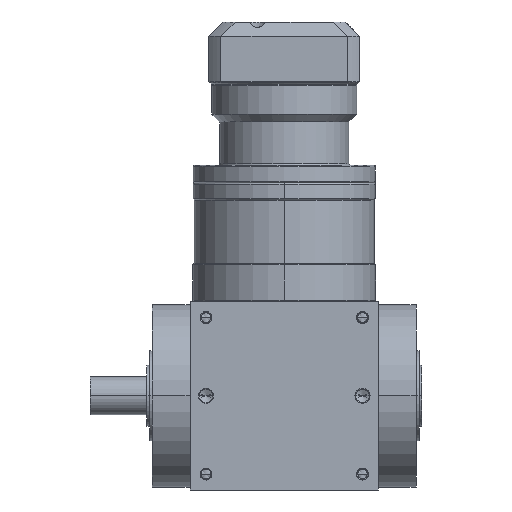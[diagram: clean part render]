
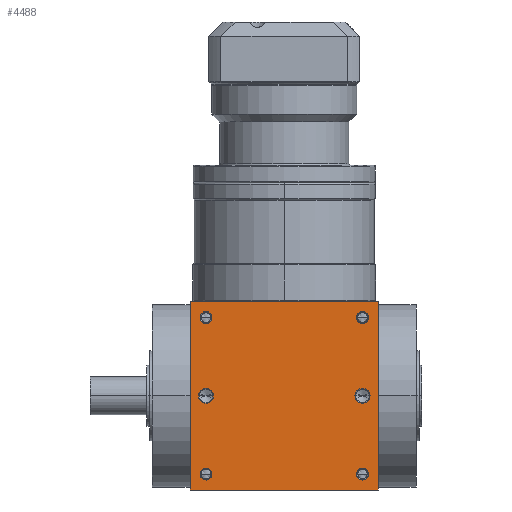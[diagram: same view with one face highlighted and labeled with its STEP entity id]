
A CAD part, front view. The second image highlights one B-rep face of the part: STEP entity #4488.
In plain terms, the highlighted planar face has unit normal (0, -1, 0).
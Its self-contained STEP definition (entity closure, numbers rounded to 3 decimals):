
#5=DIRECTION('',(1.,0.,0.));
#6=VECTOR('',#5,65.);
#7=CARTESIAN_POINT('',(-32.5,-32.5,-32.5));
#8=LINE('',#7,#6);
#155=DIRECTION('',(0.,0.,1.));
#156=VECTOR('',#155,65.);
#157=CARTESIAN_POINT('',(32.5,-32.5,-32.5));
#158=LINE('',#157,#156);
#209=DIRECTION('',(0.,0.,1.));
#210=VECTOR('',#209,65.);
#211=CARTESIAN_POINT('',(-32.5,-32.5,-32.5));
#212=LINE('',#211,#210);
#213=CARTESIAN_POINT('',(27.,-32.5,27.));
#214=DIRECTION('',(0.,1.,0.));
#215=DIRECTION('',(-1.,0.,0.));
#216=AXIS2_PLACEMENT_3D('',#213,#214,#215);
#218=CARTESIAN_POINT('',(27.,-32.5,27.));
#219=DIRECTION('',(0.,1.,0.));
#220=DIRECTION('',(1.,0.,0.));
#221=AXIS2_PLACEMENT_3D('',#218,#219,#220);
#223=CARTESIAN_POINT('',(-27.,-32.5,27.));
#224=DIRECTION('',(0.,1.,0.));
#225=DIRECTION('',(-1.,0.,0.));
#226=AXIS2_PLACEMENT_3D('',#223,#224,#225);
#228=CARTESIAN_POINT('',(-27.,-32.5,27.));
#229=DIRECTION('',(0.,1.,0.));
#230=DIRECTION('',(1.,0.,0.));
#231=AXIS2_PLACEMENT_3D('',#228,#229,#230);
#233=CARTESIAN_POINT('',(27.,-32.5,-27.));
#234=DIRECTION('',(0.,1.,0.));
#235=DIRECTION('',(-1.,0.,0.));
#236=AXIS2_PLACEMENT_3D('',#233,#234,#235);
#238=CARTESIAN_POINT('',(27.,-32.5,-27.));
#239=DIRECTION('',(0.,1.,0.));
#240=DIRECTION('',(1.,0.,0.));
#241=AXIS2_PLACEMENT_3D('',#238,#239,#240);
#243=CARTESIAN_POINT('',(-27.,-32.5,-27.));
#244=DIRECTION('',(0.,1.,0.));
#245=DIRECTION('',(-1.,0.,0.));
#246=AXIS2_PLACEMENT_3D('',#243,#244,#245);
#248=CARTESIAN_POINT('',(-27.,-32.5,-27.));
#249=DIRECTION('',(0.,1.,0.));
#250=DIRECTION('',(1.,0.,0.));
#251=AXIS2_PLACEMENT_3D('',#248,#249,#250);
#253=CARTESIAN_POINT('',(-27.,-32.5,0.));
#254=DIRECTION('',(0.,1.,0.));
#255=DIRECTION('',(1.,0.,0.));
#256=AXIS2_PLACEMENT_3D('',#253,#254,#255);
#258=CARTESIAN_POINT('',(-27.,-32.5,0.));
#259=DIRECTION('',(0.,1.,0.));
#260=DIRECTION('',(-1.,0.,0.));
#261=AXIS2_PLACEMENT_3D('',#258,#259,#260);
#263=CARTESIAN_POINT('',(27.,-32.5,0.));
#264=DIRECTION('',(0.,1.,0.));
#265=DIRECTION('',(1.,0.,0.));
#266=AXIS2_PLACEMENT_3D('',#263,#264,#265);
#268=CARTESIAN_POINT('',(27.,-32.5,0.));
#269=DIRECTION('',(0.,1.,0.));
#270=DIRECTION('',(-1.,0.,0.));
#271=AXIS2_PLACEMENT_3D('',#268,#269,#270);
#285=DIRECTION('',(1.,0.,0.));
#286=VECTOR('',#285,65.);
#287=CARTESIAN_POINT('',(-32.5,-32.5,32.5));
#288=LINE('',#287,#286);
#3589=CARTESIAN_POINT('',(-32.5,-32.5,-32.5));
#3591=VERTEX_POINT('',#3589);
#3592=CARTESIAN_POINT('',(32.5,-32.5,-32.5));
#3593=VERTEX_POINT('',#3592);
#3597=CARTESIAN_POINT('',(-32.5,-32.5,32.5));
#3599=VERTEX_POINT('',#3597);
#3600=CARTESIAN_POINT('',(32.5,-32.5,32.5));
#3601=VERTEX_POINT('',#3600);
#3768=CARTESIAN_POINT('',(24.95,-32.5,27.));
#3769=CARTESIAN_POINT('',(29.05,-32.5,27.));
#3770=VERTEX_POINT('',#3768);
#3771=VERTEX_POINT('',#3769);
#3776=CARTESIAN_POINT('',(-29.05,-32.5,27.));
#3777=CARTESIAN_POINT('',(-24.95,-32.5,27.));
#3778=VERTEX_POINT('',#3776);
#3779=VERTEX_POINT('',#3777);
#3784=CARTESIAN_POINT('',(24.95,-32.5,-27.));
#3785=CARTESIAN_POINT('',(29.05,-32.5,-27.));
#3786=VERTEX_POINT('',#3784);
#3787=VERTEX_POINT('',#3785);
#3792=CARTESIAN_POINT('',(-29.05,-32.5,-27.));
#3793=CARTESIAN_POINT('',(-24.95,-32.5,-27.));
#3794=VERTEX_POINT('',#3792);
#3795=VERTEX_POINT('',#3793);
#4134=CARTESIAN_POINT('',(-24.4,-32.5,0.));
#4135=CARTESIAN_POINT('',(-29.6,-32.5,0.));
#4136=VERTEX_POINT('',#4134);
#4137=VERTEX_POINT('',#4135);
#4142=CARTESIAN_POINT('',(29.6,-32.5,0.));
#4143=CARTESIAN_POINT('',(24.4,-32.5,0.));
#4144=VERTEX_POINT('',#4142);
#4145=VERTEX_POINT('',#4143);
#4440=CARTESIAN_POINT('',(-32.5,-32.5,-32.5));
#4441=DIRECTION('',(0.,-1.,0.));
#4442=DIRECTION('',(1.,0.,0.));
#4443=AXIS2_PLACEMENT_3D('',#4440,#4441,#4442);
#4444=PLANE('',#4443);
#4445=ORIENTED_EDGE('',*,*,#4280,.F.);
#4446=ORIENTED_EDGE('',*,*,#4323,.T.);
#4448=ORIENTED_EDGE('',*,*,#4447,.T.);
#4449=ORIENTED_EDGE('',*,*,#4402,.F.);
#4450=EDGE_LOOP('',(#4445,#4446,#4448,#4449));
#4451=FACE_OUTER_BOUND('',#4450,.F.);
#4453=ORIENTED_EDGE('',*,*,#4452,.F.);
#4455=ORIENTED_EDGE('',*,*,#4454,.F.);
#4456=EDGE_LOOP('',(#4453,#4455));
#4457=FACE_BOUND('',#4456,.F.);
#4459=ORIENTED_EDGE('',*,*,#4458,.F.);
#4461=ORIENTED_EDGE('',*,*,#4460,.F.);
#4462=EDGE_LOOP('',(#4459,#4461));
#4463=FACE_BOUND('',#4462,.F.);
#4465=ORIENTED_EDGE('',*,*,#4464,.F.);
#4467=ORIENTED_EDGE('',*,*,#4466,.F.);
#4468=EDGE_LOOP('',(#4465,#4467));
#4469=FACE_BOUND('',#4468,.F.);
#4471=ORIENTED_EDGE('',*,*,#4470,.F.);
#4473=ORIENTED_EDGE('',*,*,#4472,.F.);
#4474=EDGE_LOOP('',(#4471,#4473));
#4475=FACE_BOUND('',#4474,.F.);
#4477=ORIENTED_EDGE('',*,*,#4476,.F.);
#4479=ORIENTED_EDGE('',*,*,#4478,.F.);
#4480=EDGE_LOOP('',(#4477,#4479));
#4481=FACE_BOUND('',#4480,.F.);
#4483=ORIENTED_EDGE('',*,*,#4482,.F.);
#4485=ORIENTED_EDGE('',*,*,#4484,.F.);
#4486=EDGE_LOOP('',(#4483,#4485));
#4487=FACE_BOUND('',#4486,.F.);
#4488=ADVANCED_FACE('',(#4451,#4457,#4463,#4469,#4475,#4481,#4487),#4444,.T.);
#217=CIRCLE('',#216,2.05);
#222=CIRCLE('',#221,2.05);
#227=CIRCLE('',#226,2.05);
#232=CIRCLE('',#231,2.05);
#237=CIRCLE('',#236,2.05);
#242=CIRCLE('',#241,2.05);
#247=CIRCLE('',#246,2.05);
#252=CIRCLE('',#251,2.05);
#257=CIRCLE('',#256,2.6);
#262=CIRCLE('',#261,2.6);
#267=CIRCLE('',#266,2.6);
#272=CIRCLE('',#271,2.6);
#4280=EDGE_CURVE('',#3591,#3593,#8,.T.);
#4323=EDGE_CURVE('',#3591,#3599,#212,.T.);
#4402=EDGE_CURVE('',#3593,#3601,#158,.T.);
#4447=EDGE_CURVE('',#3599,#3601,#288,.T.);
#4452=EDGE_CURVE('',#3770,#3771,#217,.T.);
#4454=EDGE_CURVE('',#3771,#3770,#222,.T.);
#4458=EDGE_CURVE('',#3778,#3779,#227,.T.);
#4460=EDGE_CURVE('',#3779,#3778,#232,.T.);
#4464=EDGE_CURVE('',#3786,#3787,#237,.T.);
#4466=EDGE_CURVE('',#3787,#3786,#242,.T.);
#4470=EDGE_CURVE('',#3794,#3795,#247,.T.);
#4472=EDGE_CURVE('',#3795,#3794,#252,.T.);
#4476=EDGE_CURVE('',#4136,#4137,#257,.T.);
#4478=EDGE_CURVE('',#4137,#4136,#262,.T.);
#4482=EDGE_CURVE('',#4144,#4145,#267,.T.);
#4484=EDGE_CURVE('',#4145,#4144,#272,.T.);
